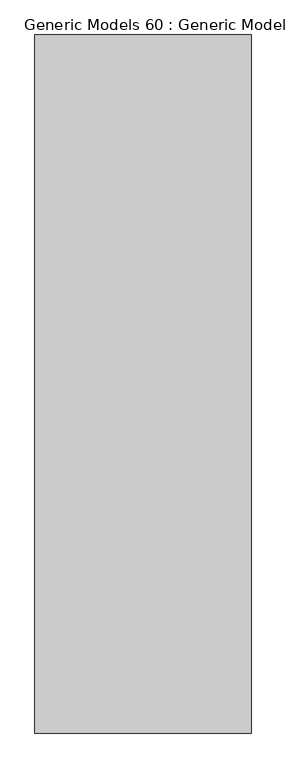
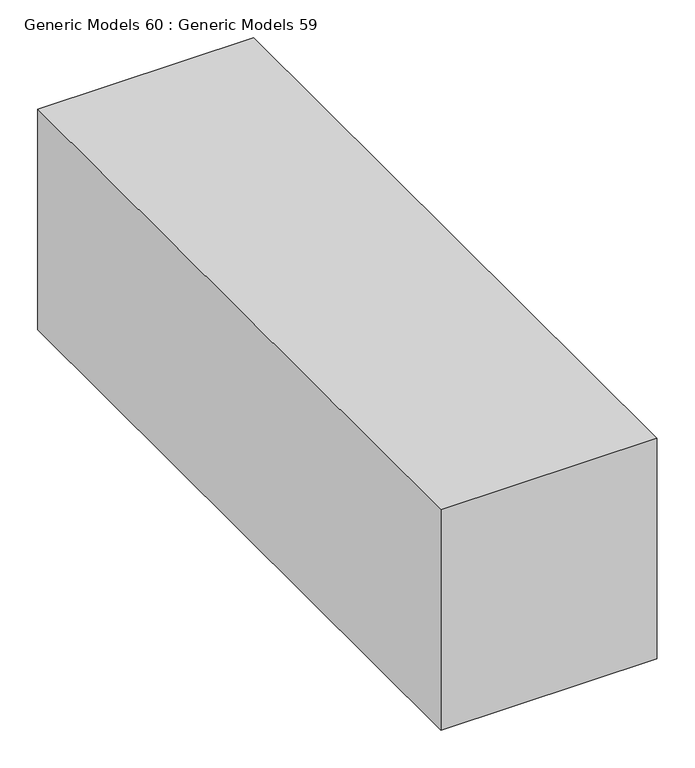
"""IFC4 building model written with IfcOpenShell, lengths in millimetres: proxy geometry, Generic Models 60 : Generic Models 59."""

from ifc_helpers import new_model, si_unit, frame, origin, place, context, project, spatial, polyline, outline, extrude, source, transform, mapped, element, save


def generic_models_60_generic_models_59_80c58292(model_context):
    return source(origin(), model_context, "Body", "SweptSolid", [
        extrude(outline(polyline([(-1123.95, 11379.2), (-1454.15, 11379.2), (-1454.15, 12445.8947939), (-1123.95, 12445.8947939), (-1123.95, 11379.2)])), frame((0.0, 0.0, 5943.6), z_axis=(0.0, 0.0, 1.0), x_axis=(1.0, 0.0, 0.0)), (0.0, 0.0, 1.0), 355.6),
    ])


if __name__ == "__main__":
    model = new_model("IFC4")
    model_context = context("Model", 3, world=origin())
    ifc_project = project(units=[si_unit("LENGTHUNIT", "METRE", prefix="MILLI")], contexts=[model_context])
    site = spatial("IfcSite", under=ifc_project)
    building = spatial("IfcBuilding", under=site)
    placement = place(None, origin())
    generic_models_60_generic_models_59_shape = generic_models_60_generic_models_59_80c58292(model_context)
    element("IfcBuildingElementProxy", 1, Name="Generic Models 60 : Generic Models 59", ObjectType="Generic Models 60 : Generic Models 59", at=placement, inside=building, context=model_context, shape_type="MappedRepresentation", body=[
        mapped(generic_models_60_generic_models_59_shape, transform((0.0, 0.0, 0.0), x_axis=(1.0, 0.0, 0.0), y_axis=(0.0, 1.0, 0.0), z_axis=(0.0, 0.0, 1.0))),
    ])
    save(model, "model.ifc")
